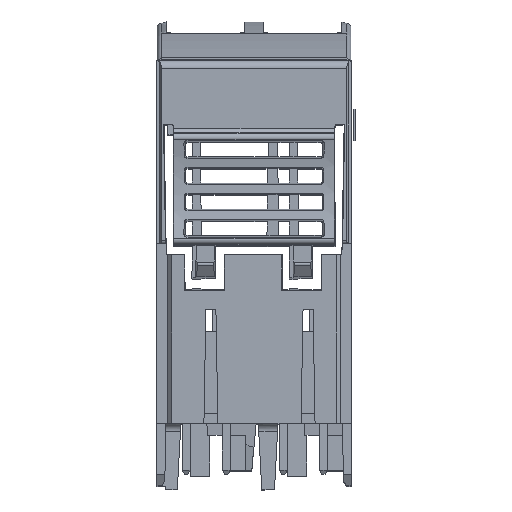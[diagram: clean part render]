
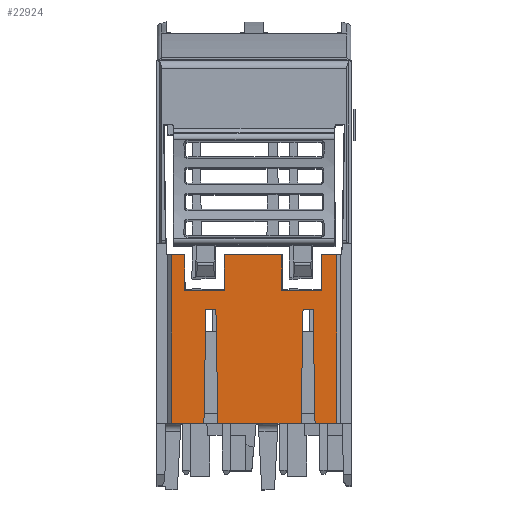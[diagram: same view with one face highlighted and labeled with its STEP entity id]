
A CAD part, top view. The second image highlights one B-rep face of the part: STEP entity #22924.
In plain terms, the highlighted planar face has unit normal (0, 0, 1).
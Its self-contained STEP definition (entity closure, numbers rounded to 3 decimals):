
#2310=DIRECTION('',(-1.,0.,0.));
#2311=VECTOR('',#2310,4.192);
#2312=CARTESIAN_POINT('',(-6.508,20.5,1.813));
#2313=LINE('',#2312,#2311);
#2338=DIRECTION('',(-1.,0.,0.));
#2339=VECTOR('',#2338,10.783);
#2340=CARTESIAN_POINT('',(6.092,20.5,1.813));
#2341=LINE('',#2340,#2339);
#2366=DIRECTION('',(-1.,0.,0.));
#2367=VECTOR('',#2366,2.792);
#2368=CARTESIAN_POINT('',(10.7,20.5,1.813));
#2369=LINE('',#2368,#2367);
#3597=DIRECTION('',(0.017,1.,0.));
#3598=VECTOR('',#3597,14.802);
#3599=CARTESIAN_POINT('',(6.092,20.5,1.813));
#3600=LINE('',#3599,#3598);
#3604=DIRECTION('',(0.017,-1.,0.));
#3605=VECTOR('',#3604,14.802);
#3606=CARTESIAN_POINT('',(-4.95,35.3,1.813));
#3607=LINE('',#3606,#3605);
#3611=DIRECTION('',(1.,0.,0.));
#3612=VECTOR('',#3611,1.3);
#3613=CARTESIAN_POINT('',(-6.25,35.3,1.813));
#3614=LINE('',#3613,#3612);
#3618=DIRECTION('',(0.017,1.,0.));
#3619=VECTOR('',#3618,14.802);
#3620=CARTESIAN_POINT('',(-6.508,20.5,1.813));
#3621=LINE('',#3620,#3619);
#3625=DIRECTION('',(0.,-1.,0.));
#3626=VECTOR('',#3625,21.836);
#3627=CARTESIAN_POINT('',(-10.7,42.336,1.813));
#3628=LINE('',#3627,#3626);
#3632=DIRECTION('',(-1.,0.,0.));
#3633=VECTOR('',#3632,1.7);
#3634=CARTESIAN_POINT('',(-9.,42.336,1.813));
#3635=LINE('',#3634,#3633);
#3639=DIRECTION('',(0.,1.,0.));
#3640=VECTOR('',#3639,4.594);
#3641=CARTESIAN_POINT('',(-9.,37.743,1.813));
#3642=LINE('',#3641,#3640);
#3646=DIRECTION('',(-1.,0.,0.));
#3647=VECTOR('',#3646,5.2);
#3648=CARTESIAN_POINT('',(-3.8,37.743,1.813));
#3649=LINE('',#3648,#3647);
#3653=DIRECTION('',(0.,-1.,0.));
#3654=VECTOR('',#3653,4.594);
#3655=CARTESIAN_POINT('',(-3.8,42.336,1.813));
#3656=LINE('',#3655,#3654);
#3660=DIRECTION('',(-1.,0.,0.));
#3661=VECTOR('',#3660,7.4);
#3662=CARTESIAN_POINT('',(3.6,42.336,1.813));
#3663=LINE('',#3662,#3661);
#3667=DIRECTION('',(0.,1.,0.));
#3668=VECTOR('',#3667,4.594);
#3669=CARTESIAN_POINT('',(3.6,37.743,1.813));
#3670=LINE('',#3669,#3668);
#3674=DIRECTION('',(-1.,0.,0.));
#3675=VECTOR('',#3674,5.2);
#3676=CARTESIAN_POINT('',(8.8,37.743,1.813));
#3677=LINE('',#3676,#3675);
#3681=DIRECTION('',(0.,-1.,0.));
#3682=VECTOR('',#3681,4.594);
#3683=CARTESIAN_POINT('',(8.8,42.336,1.813));
#3684=LINE('',#3683,#3682);
#3688=DIRECTION('',(0.,1.,0.));
#3689=VECTOR('',#3688,21.836);
#3690=CARTESIAN_POINT('',(10.7,20.5,1.813));
#3691=LINE('',#3690,#3689);
#3695=DIRECTION('',(0.017,-1.,0.));
#3696=VECTOR('',#3695,14.802);
#3697=CARTESIAN_POINT('',(7.65,35.3,1.813));
#3698=LINE('',#3697,#3696);
#3702=DIRECTION('',(1.,0.,0.));
#3703=VECTOR('',#3702,1.3);
#3704=CARTESIAN_POINT('',(6.35,35.3,1.813));
#3705=LINE('',#3704,#3703);
#15143=DIRECTION('',(1.,0.,0.));
#15144=VECTOR('',#15143,1.9);
#15145=CARTESIAN_POINT('',(8.8,42.336,1.813));
#15146=LINE('',#15145,#15144);
#18263=CARTESIAN_POINT('',(-10.7,20.5,
1.813));
#18264=VERTEX_POINT('',#18263);
#18396=CARTESIAN_POINT('',(-6.508,20.5,
1.813));
#18397=VERTEX_POINT('',#18396);
#18509=CARTESIAN_POINT('',(-10.7,42.336,1.813));
#18510=VERTEX_POINT('',#18509);
#18640=CARTESIAN_POINT('',(-6.25,35.3,1.813));
#18641=VERTEX_POINT('',#18640);
#18652=CARTESIAN_POINT('',(-4.95,35.3,1.813));
#18653=VERTEX_POINT('',#18652);
#18654=CARTESIAN_POINT('',(-4.692,20.5,
1.813));
#18655=VERTEX_POINT('',#18654);
#18756=CARTESIAN_POINT('',(7.908,20.5,1.813));
#18757=VERTEX_POINT('',#18756);
#18781=CARTESIAN_POINT('',(-9.,42.336,1.813));
#18782=VERTEX_POINT('',#18781);
#18783=CARTESIAN_POINT('',(6.092,20.5,1.813));
#18784=CARTESIAN_POINT('',(6.35,35.3,1.813));
#18785=VERTEX_POINT('',#18783);
#18786=VERTEX_POINT('',#18784);
#18801=CARTESIAN_POINT('',(10.7,42.336,1.813));
#18802=VERTEX_POINT('',#18801);
#18920=CARTESIAN_POINT('',(7.65,35.3,1.813));
#18921=VERTEX_POINT('',#18920);
#18952=CARTESIAN_POINT('',(-9.,37.743,1.813));
#18953=VERTEX_POINT('',#18952);
#18966=CARTESIAN_POINT('',(10.7,20.5,1.813));
#18967=VERTEX_POINT('',#18966);
#19081=CARTESIAN_POINT('',(8.8,42.336,1.813));
#19082=VERTEX_POINT('',#19081);
#19117=CARTESIAN_POINT('',(-3.8,37.743,
1.813));
#19118=VERTEX_POINT('',#19117);
#19238=CARTESIAN_POINT('',(-3.8,42.336,1.813));
#19239=VERTEX_POINT('',#19238);
#19353=CARTESIAN_POINT('',(3.6,42.336,1.813));
#19355=VERTEX_POINT('',#19353);
#19357=CARTESIAN_POINT('',(8.8,37.743,1.813));
#19358=VERTEX_POINT('',#19357);
#19474=CARTESIAN_POINT('',(3.6,37.743,1.813));
#19475=VERTEX_POINT('',#19474);
#22883=CARTESIAN_POINT('',(11.8,66.,1.813));
#22884=DIRECTION('',(0.,0.,1.));
#22885=DIRECTION('',(-1.,0.,0.));
#22886=AXIS2_PLACEMENT_3D('',#22883,#22884,#22885);
#22887=PLANE('',#22886);
#22889=ORIENTED_EDGE('',*,*,#22888,.F.);
#22890=ORIENTED_EDGE('',*,*,#22201,.T.);
#22892=ORIENTED_EDGE('',*,*,#22891,.F.);
#22893=ORIENTED_EDGE('',*,*,#22866,.F.);
#22895=ORIENTED_EDGE('',*,*,#22894,.F.);
#22896=ORIENTED_EDGE('',*,*,#22193,.T.);
#22897=ORIENTED_EDGE('',*,*,#22600,.F.);
#22898=ORIENTED_EDGE('',*,*,#22625,.F.);
#22900=ORIENTED_EDGE('',*,*,#22899,.F.);
#22902=ORIENTED_EDGE('',*,*,#22901,.F.);
#22904=ORIENTED_EDGE('',*,*,#22903,.F.);
#22906=ORIENTED_EDGE('',*,*,#22905,.F.);
#22908=ORIENTED_EDGE('',*,*,#22907,.F.);
#22910=ORIENTED_EDGE('',*,*,#22909,.F.);
#22912=ORIENTED_EDGE('',*,*,#22911,.F.);
#22914=ORIENTED_EDGE('',*,*,#22913,.T.);
#22916=ORIENTED_EDGE('',*,*,#22915,.F.);
#22917=ORIENTED_EDGE('',*,*,#22209,.T.);
#22919=ORIENTED_EDGE('',*,*,#22918,.F.);
#22921=ORIENTED_EDGE('',*,*,#22920,.F.);
#22922=EDGE_LOOP('',(#22889,#22890,#22892,#22893,#22895,#22896,#22897,#22898,
#22900,#22902,#22904,#22906,#22908,#22910,#22912,#22914,#22916,#22917,#22919,
#22921));
#22923=FACE_OUTER_BOUND('',#22922,.F.);
#22193=EDGE_CURVE('',#18397,#18264,#2313,.T.);
#22201=EDGE_CURVE('',#18785,#18655,#2341,.T.);
#22209=EDGE_CURVE('',#18967,#18757,#2369,.T.);
#22600=EDGE_CURVE('',#18510,#18264,#3628,.T.);
#22625=EDGE_CURVE('',#18782,#18510,#3635,.T.);
#22866=EDGE_CURVE('',#18641,#18653,#3614,.T.);
#22888=EDGE_CURVE('',#18785,#18786,#3600,.T.);
#22891=EDGE_CURVE('',#18653,#18655,#3607,.T.);
#22894=EDGE_CURVE('',#18397,#18641,#3621,.T.);
#22899=EDGE_CURVE('',#18953,#18782,#3642,.T.);
#22901=EDGE_CURVE('',#19118,#18953,#3649,.T.);
#22903=EDGE_CURVE('',#19239,#19118,#3656,.T.);
#22905=EDGE_CURVE('',#19355,#19239,#3663,.T.);
#22907=EDGE_CURVE('',#19475,#19355,#3670,.T.);
#22909=EDGE_CURVE('',#19358,#19475,#3677,.T.);
#22911=EDGE_CURVE('',#19082,#19358,#3684,.T.);
#22913=EDGE_CURVE('',#19082,#18802,#15146,.T.);
#22915=EDGE_CURVE('',#18967,#18802,#3691,.T.);
#22918=EDGE_CURVE('',#18921,#18757,#3698,.T.);
#22920=EDGE_CURVE('',#18786,#18921,#3705,.T.);
#22924=ADVANCED_FACE('',(#22923),#22887,.T.);
